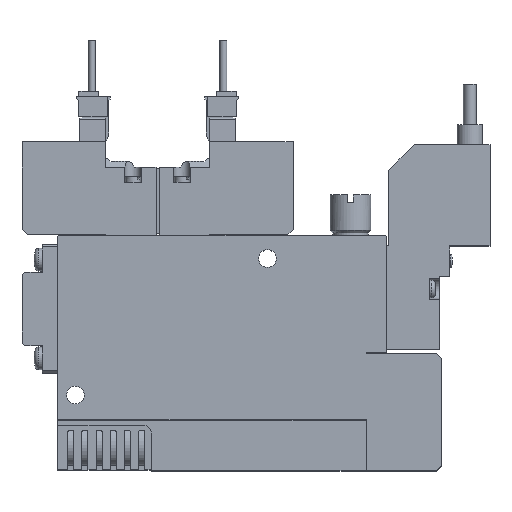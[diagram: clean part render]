
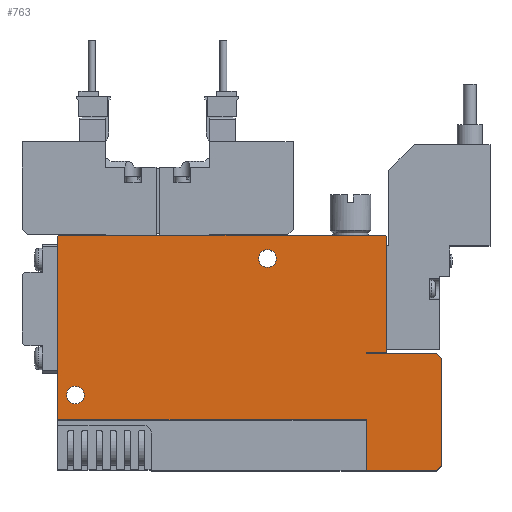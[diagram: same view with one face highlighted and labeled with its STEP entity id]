
A CAD part, top view. The second image highlights one B-rep face of the part: STEP entity #763.
In plain terms, the highlighted planar face has unit normal (0, 0, 1).
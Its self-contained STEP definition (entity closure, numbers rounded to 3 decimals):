
#763=ADVANCED_FACE('',(#1755,#1756,#1757),#1758,.F.);
#1755=FACE_OUTER_BOUND('',#2809,.T.);
#1756=FACE_BOUND('',#2810,.T.);
#1757=FACE_BOUND('',#2811,.T.);
#1758=PLANE('',#2812);
#2809=EDGE_LOOP('',(#6491,#6492,#6493,#6494,#6495,#6496,#6497,#6498,#6499,#6500,#6501,#6502,#6503,#6504));
#2810=EDGE_LOOP('',(#6505));
#2811=EDGE_LOOP('',(#6506));
#2812=AXIS2_PLACEMENT_3D('',#6507,#6508,#6509);
#6491=ORIENTED_EDGE('',*,*,#8108,.T.);
#6492=ORIENTED_EDGE('',*,*,#8092,.F.);
#6493=ORIENTED_EDGE('',*,*,#7991,.F.);
#6494=ORIENTED_EDGE('',*,*,#8069,.T.);
#6495=ORIENTED_EDGE('',*,*,#8076,.T.);
#6496=ORIENTED_EDGE('',*,*,#7749,.T.);
#6497=ORIENTED_EDGE('',*,*,#8044,.T.);
#6498=ORIENTED_EDGE('',*,*,#7857,.T.);
#6499=ORIENTED_EDGE('',*,*,#8087,.T.);
#6500=ORIENTED_EDGE('',*,*,#7831,.T.);
#6501=ORIENTED_EDGE('',*,*,#8102,.T.);
#6502=ORIENTED_EDGE('',*,*,#8015,.T.);
#6503=ORIENTED_EDGE('',*,*,#8033,.T.);
#6504=ORIENTED_EDGE('',*,*,#8085,.T.);
#6505=ORIENTED_EDGE('',*,*,#8071,.F.);
#6506=ORIENTED_EDGE('',*,*,#7780,.F.);
#6507=CARTESIAN_POINT('',(0.0,0.0,5.0));
#6508=DIRECTION('',(0.0,0.0,-1.0));
#6509=DIRECTION('',(0.0,-1.0,0.0));
#7749=EDGE_CURVE('',#9586,#9584,#9587,.T.);
#7780=EDGE_CURVE('',#9644,#9644,#9645,.T.);
#7831=EDGE_CURVE('',#9738,#9736,#9739,.T.);
#7857=EDGE_CURVE('',#9787,#9785,#9788,.T.);
#7991=EDGE_CURVE('',#10009,#10011,#10012,.T.);
#8015=EDGE_CURVE('',#10050,#10048,#10051,.T.);
#8033=EDGE_CURVE('',#10048,#10075,#10077,.T.);
#8044=EDGE_CURVE('',#9584,#9787,#10094,.T.);
#8069=EDGE_CURVE('',#10009,#10129,#10131,.T.);
#8071=EDGE_CURVE('',#10134,#10134,#10135,.T.);
#8076=EDGE_CURVE('',#10129,#9586,#10142,.T.);
#8085=EDGE_CURVE('',#10075,#10154,#10156,.T.);
#8087=EDGE_CURVE('',#9785,#9738,#10158,.T.);
#8092=EDGE_CURVE('',#10011,#10163,#10164,.T.);
#8102=EDGE_CURVE('',#9736,#10050,#10176,.T.);
#8108=EDGE_CURVE('',#10154,#10163,#10182,.T.);
#9584=VERTEX_POINT('',#12646);
#9586=VERTEX_POINT('',#12649);
#9587=LINE('',#12650,#12651);
#9644=VERTEX_POINT('',#12746);
#9645=CIRCLE('',#12747,1.75);
#9736=VERTEX_POINT('',#12929);
#9738=VERTEX_POINT('',#12932);
#9739=LINE('',#12933,#12934);
#9785=VERTEX_POINT('',#13001);
#9787=VERTEX_POINT('',#13004);
#9788=LINE('',#13005,#13006);
#10009=VERTEX_POINT('',#13363);
#10011=VERTEX_POINT('',#13366);
#10012=LINE('',#13367,#13368);
#10048=VERTEX_POINT('',#13447);
#10050=VERTEX_POINT('',#13450);
#10051=LINE('',#13451,#13452);
#10075=VERTEX_POINT('',#13507);
#10077=LINE('',#13510,#13511);
#10094=LINE('',#13535,#13536);
#10129=VERTEX_POINT('',#13594);
#10131=LINE('',#13597,#13598);
#10134=VERTEX_POINT('',#13601);
#10135=CIRCLE('',#13602,1.75);
#10142=LINE('',#13612,#13613);
#10154=VERTEX_POINT('',#13630);
#10156=LINE('',#13633,#13634);
#10158=LINE('',#13637,#13638);
#10163=VERTEX_POINT('',#13647);
#10164=LINE('',#13648,#13649);
#10176=LINE('',#13669,#13670);
#10182=LINE('',#13680,#13681);
#12646=CARTESIAN_POINT('',(76.0,22.25,5.0));
#12649=CARTESIAN_POINT('',(76.0,1.0,5.0));
#12650=CARTESIAN_POINT('',(76.0,1.0,5.0));
#12651=VECTOR('',#15050,1.0);
#12746=CARTESIAN_POINT('',(43.25,42.0,5.0));
#12747=AXIS2_PLACEMENT_3D('',#15097,#15098,#15099);
#12929=CARTESIAN_POINT('',(65.0,23.5,5.0));
#12932=CARTESIAN_POINT('',(61.0,23.5,5.0));
#12933=CARTESIAN_POINT('',(61.0,23.5,5.0));
#12934=VECTOR('',#15162,1.0);
#13001=CARTESIAN_POINT('',(61.0,23.25,5.0));
#13004=CARTESIAN_POINT('',(75.0,23.25,5.0));
#13005=CARTESIAN_POINT('',(75.0,23.25,5.0));
#13006=VECTOR('',#15194,1.0);
#13363=CARTESIAN_POINT('',(61.1,0.0,5.0));
#13366=CARTESIAN_POINT('',(61.1,10.1,5.0));
#13367=CARTESIAN_POINT('',(61.1,0.0,5.0));
#13368=VECTOR('',#15384,1.0);
#13447=CARTESIAN_POINT('',(64.8,46.6,5.0));
#13450=CARTESIAN_POINT('',(65.0,46.4,5.0));
#13451=CARTESIAN_POINT('',(65.0,46.4,5.0));
#13452=VECTOR('',#15415,1.0);
#13507=CARTESIAN_POINT('',(0.2,46.6,5.0));
#13510=CARTESIAN_POINT('',(64.8,46.6,5.0));
#13511=VECTOR('',#15435,1.0);
#13535=CARTESIAN_POINT('',(76.0,22.25,5.0));
#13536=VECTOR('',#15452,1.0);
#13594=CARTESIAN_POINT('',(75.0,0.0,5.0));
#13597=CARTESIAN_POINT('',(0.0,0.0,5.0));
#13598=VECTOR('',#15477,1.0);
#13601=CARTESIAN_POINT('',(5.25,15.0,5.0));
#13602=AXIS2_PLACEMENT_3D('',#15481,#15482,#15483);
#13612=CARTESIAN_POINT('',(75.0,0.0,5.0));
#13613=VECTOR('',#15490,1.0);
#13630=CARTESIAN_POINT('',(0.0,46.4,5.0));
#13633=CARTESIAN_POINT('',(0.2,46.6,5.0));
#13634=VECTOR('',#15503,1.0);
#13637=CARTESIAN_POINT('',(61.0,23.25,5.0));
#13638=VECTOR('',#15505,1.0);
#13647=CARTESIAN_POINT('',(0.0,10.1,5.0));
#13648=CARTESIAN_POINT('',(61.1,10.1,5.0));
#13649=VECTOR('',#15510,1.0);
#13669=CARTESIAN_POINT('',(65.0,23.5,5.0));
#13670=VECTOR('',#15522,1.0);
#13680=CARTESIAN_POINT('',(0.0,46.4,5.0));
#13681=VECTOR('',#15530,1.0);
#15050=DIRECTION('',(0.0,1.0,0.0));
#15097=CARTESIAN_POINT('',(41.5,42.0,5.0));
#15098=DIRECTION('',(0.0,0.0,1.0));
#15099=DIRECTION('',(1.0,0.0,0.0));
#15162=DIRECTION('',(1.0,0.,0.0));
#15194=DIRECTION('',(-1.0,0.0,0.0));
#15384=DIRECTION('',(0.0,1.0,0.0));
#15415=DIRECTION('',(-0.707,0.707,0.0));
#15435=DIRECTION('',(-1.0,0.0,0.0));
#15452=DIRECTION('',(-0.707,0.707,0.0));
#15477=DIRECTION('',(1.0,0.0,0.0));
#15481=CARTESIAN_POINT('',(3.5,15.0,5.0));
#15482=DIRECTION('',(0.0,0.0,1.0));
#15483=DIRECTION('',(1.0,0.0,0.0));
#15490=DIRECTION('',(0.707,0.707,0.0));
#15503=DIRECTION('',(-0.707,-0.707,0.0));
#15505=DIRECTION('',(0.0,1.0,0.0));
#15510=DIRECTION('',(-1.0,0.0,0.0));
#15522=DIRECTION('',(0.0,1.0,0.0));
#15530=DIRECTION('',(0.0,-1.0,0.0));
